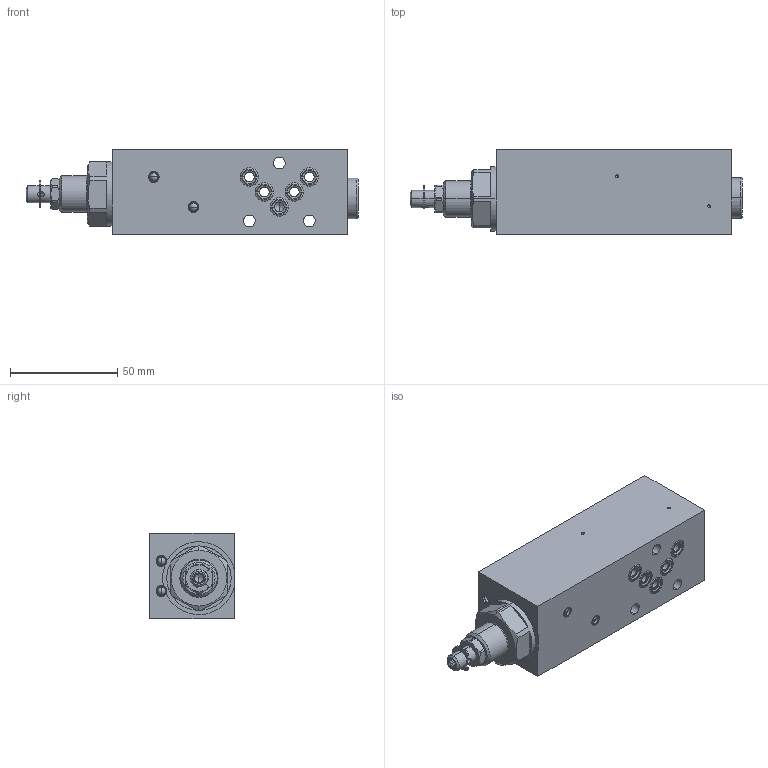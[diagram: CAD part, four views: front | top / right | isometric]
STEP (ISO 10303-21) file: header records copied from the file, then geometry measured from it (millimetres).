
FILE_DESCRIPTION (( 'STEP AP214' ), '1' );
FILE_NAME ('FVSSA04-P.STEP', '2017-03-23T07:18:28', ( '' ), ( '' ), 'SwSTEP 2.0', 'SolidWorks 2016', '' );
FILE_SCHEMA (( 'AUTOMOTIVE_DESIGN' ));
Length unit declared in the file: millimetre
Products named in the file (1): FVSSA04-P
Bounding box: 154.8 x 39.5 x 40 mm (x, y, z)
Volume: 180237.8 mm3; surface area: 29487.7 mm2
Topology: 9 solids, 15 shells, 360 faces, 843 edges, 513 vertices
Faces by surface type: cylinder 138, plane 87, cone 75, bspline 40, sphere 16, torus 4
Entity records: 14999 total; most frequent: CARTESIAN_POINT 2879, DIRECTION 1768, ORIENTED_EDGE 1634, EDGE_CURVE 817, AXIS2_PLACEMENT_3D 738, VERTEX_POINT 513, CIRCLE 417, EDGE_LOOP 410
